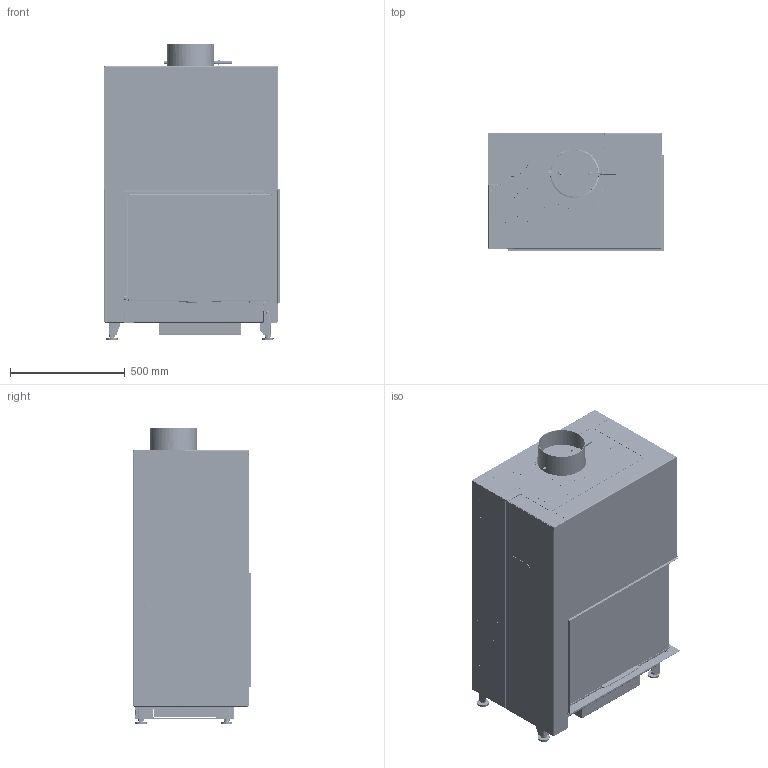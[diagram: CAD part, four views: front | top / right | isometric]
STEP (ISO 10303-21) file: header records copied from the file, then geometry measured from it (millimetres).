
FILE_DESCRIPTION(/* description */ (''),/* implementation_level */ '2;1');
FILE_NAME(/* name */ 'C:\ADSK_DM_WS\CAD_3D\03 Geraete\RII 50x68x42\Zeichnungen\RII_50x68x42_Rechts_mit_Mantel_Oben_Gen2_2022-03243.stp',/* time_stamp */ '2022-08-05T11:29:44+02:00',/* author */ ('TIS'),/* organization */ (''),/* preprocessor_version */ 'ST-DEVELOPER v18.1',/* originating_system */ 'Autodesk Inventor 2022',/* authorisation */ '');
FILE_SCHEMA (('AUTOMOTIVE_DESIGN { 1 0 10303 214 3 1 1 }'));
Products named in the file (8): 2022-03243; 2022-03242; 2022-03240; 2022-03239; 2022-03238; 2022-03237; 2022-03236; 2022-03234
Assembly tree (7 placements, depth 2):
  2022-03243
    2022-03242
    2022-03240
    2022-03239
    2022-03238
    2022-03237
    2022-03236
    2022-03234
Bounding box: 768.9 x 516.5 x 1288.56 mm (x, y, z)
Volume: 40739131.6 mm3; surface area: 17401012.6 mm2
Topology: 17 solids, 28 shells, 8882 faces, 24135 edges, 15150 vertices
Faces by surface type: plane 4963, cylinder 3458, bspline 230, cone 168, torus 62, sphere 1
Full cylindrical faces by diameter (mm): 3.242 x6, 4.5 x4, 4.8 x11, 6 x5, 7.9 x1, 8 x8, 9 x3, 9.5 x10, 10 x3, 11.192 x3, 11.4 x6, 12 x2, 16 x14, 30 x4, 163 x1, 333 x1, 339 x1
Entity records: 297566 total; most frequent: CARTESIAN_POINT 60360, ORIENTED_EDGE 48180, DIRECTION 47904, EDGE_CURVE 24143, AXIS2_PLACEMENT_3D 16184, LINE 15536, VECTOR 15536, VERTEX_POINT 15152
